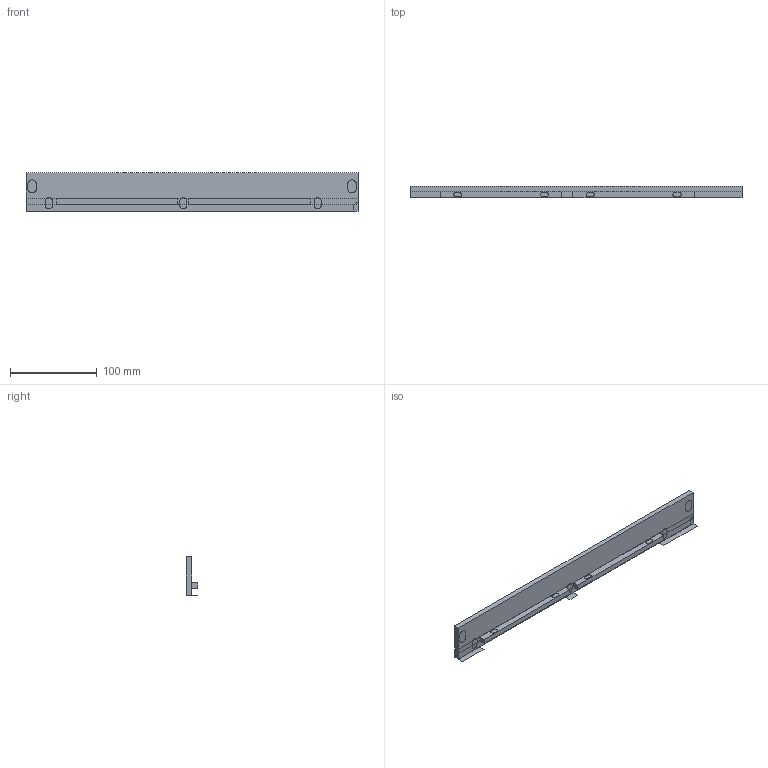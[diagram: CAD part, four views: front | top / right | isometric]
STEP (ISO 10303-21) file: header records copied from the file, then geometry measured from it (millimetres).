
FILE_DESCRIPTION(('TFLEX Exchange Step'),'2;1');
FILE_NAME('X2\041A0440043E043D0448044204350439043D\X0\ Линейки 270.stp', '2026-07-06T15:08:51+03:00',('KUser'),('Unknown organisation'),'TFLEX Exchange 2024.6','T-FLEX CAD','Unknown authorisation');
FILE_SCHEMA( ('AP203_CONFIGURATION_CONTROLLED_3D_DESIGN_OF_MECHANICAL_PARTS_AND_ASSEMBLIES_MIM_LF') );
Length unit declared in the file: millimetre
Products named in the file (1): Nodes
Bounding box: 383 x 13 x 44 mm (x, y, z)
Volume: 109070.1 mm3; surface area: 64460.5 mm2
Topology: 1 solids, 21 shells, 113 faces, 332 edges, 248 vertices
Faces by surface type: bspline 113
Entity records: 4397 total; most frequent: CARTESIAN_POINT 2413, ORIENTED_EDGE 584, EDGE_CURVE 332, VERTEX_POINT 248, B_SPLINE_CURVE_WITH_KNOTS 218, EDGE_LOOP 138, FACE_BOUND 138, B_SPLINE_SURFACE_WITH_KNOTS 113
